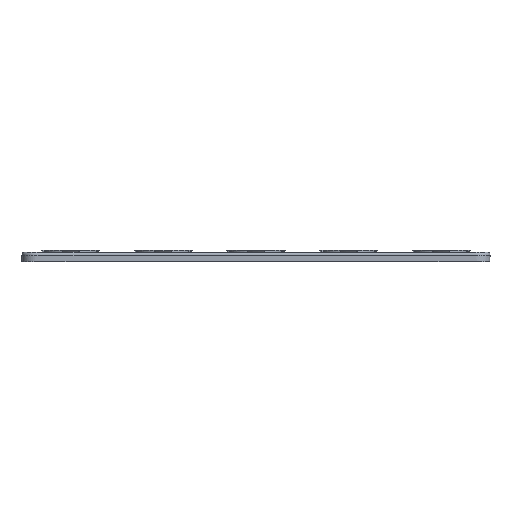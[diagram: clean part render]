
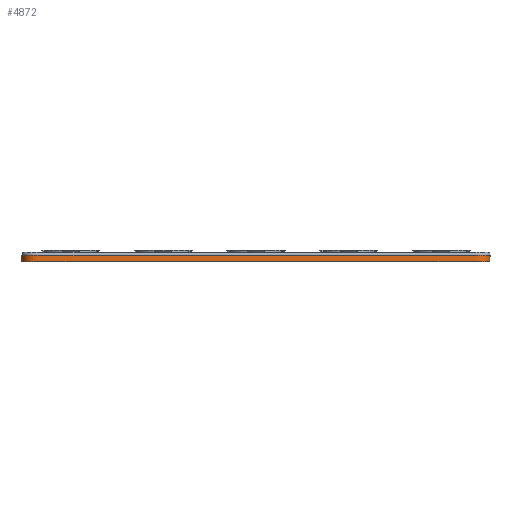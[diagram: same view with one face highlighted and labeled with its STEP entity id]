
A CAD part, left-side view. The second image highlights one B-rep face of the part: STEP entity #4872.
In plain terms, the highlighted free-form (B-spline) face has degree [1, 2] with [2, 9] control points.
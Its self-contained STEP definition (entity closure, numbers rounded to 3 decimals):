
#4872=ADVANCED_FACE($,(#9363),#55843,.T.);
#9363=FACE_OUTER_BOUND($,#14223,.T.);
#14223=EDGE_LOOP($,(#36953,#36954,#36955,#36956));
#36953=ORIENTED_EDGE($,*,*,#48324,.T.);
#36954=ORIENTED_EDGE($,*,*,#48326,.T.);
#36955=ORIENTED_EDGE($,*,*,#36986,.F.);
#36956=ORIENTED_EDGE($,*,*,#48325,.F.);
#36986=EDGE_CURVE($,#48353,#54945,#60694,.T.);
#48324=EDGE_CURVE($,#55178,#55179,#71039,.T.);
#48325=EDGE_CURVE($,#55178,#48353,#60666,.T.);
#48326=EDGE_CURVE($,#55179,#54945,#60667,.T.);
#48353=VERTEX_POINT($,#116943);
#54945=VERTEX_POINT($,#123535);
#55178=VERTEX_POINT($,#123768);
#55179=VERTEX_POINT($,#123769);
#55843=(
BOUNDED_SURFACE()
B_SPLINE_SURFACE(1,2,((#116844,#116845,#116846,#116847,#116848,#116849,#116850,
#116851,#116852),(#116853,#116854,#116855,#116856,#116857,#116858,#116859,
#116860,#116861)),.UNSPECIFIED.,.F.,.F.,.F.)
B_SPLINE_SURFACE_WITH_KNOTS((2,2),(3,2,2,2,3),(0.,1.4),(-135.521,
-8.477,-3.764,85.298,90.011),.UNSPECIFIED.)
GEOMETRIC_REPRESENTATION_ITEM()
RATIONAL_B_SPLINE_SURFACE(((1.,1.,1.,0.707,1.,1.,1.,0.707,
1.),(1.,1.,1.,0.707,1.,1.,1.,0.707,1.)))
REPRESENTATION_ITEM($)
SURFACE()
);
#60666=(
BOUNDED_CURVE()
B_SPLINE_CURVE(2,(#106420,#106421,#106422,#106423,#106424,#106425,#106426,
#106427,#106428),.UNSPECIFIED.,.F.,.F.)
B_SPLINE_CURVE_WITH_KNOTS((3,2,2,2,3),(-135.521,-8.477,
-3.764,85.298,90.011),.UNSPECIFIED.)
CURVE()
GEOMETRIC_REPRESENTATION_ITEM()
RATIONAL_B_SPLINE_CURVE((1.,1.,1.,0.707,1.,1.,1.,0.707,
1.))
REPRESENTATION_ITEM($)
);
#60667=(
BOUNDED_CURVE()
B_SPLINE_CURVE(3,(#106429,#106430,#106431,#106432,#106433,#106434,#106435,
#106436,#106437,#106438,#106439,#106440,#106441,#106442,#106443,#106444,
#106445,#106446,#106447),.UNSPECIFIED.,.F.,.F.)
B_SPLINE_CURVE_WITH_KNOTS((4,3,1,1,1,3,3,1,1,1,4),(224.037,352.037,
352.912,353.86,354.813,355.807,445.807,
446.682,447.63,448.582,449.577),.UNSPECIFIED.)
CURVE()
GEOMETRIC_REPRESENTATION_ITEM()
RATIONAL_B_SPLINE_CURVE((1.,1.,1.,1.,1.,1.,1.,1.,1.,1.,1.,1.,1.,1.,1.,1.,
1.,1.,1.))
REPRESENTATION_ITEM($)
);
#60694=B_SPLINE_CURVE_WITH_KNOTS($,1,(#78853,#78854),.UNSPECIFIED.,.F.,.F.,
(2,2),(0.,1.4),.UNSPECIFIED.);
#71039=B_SPLINE_CURVE_WITH_KNOTS($,1,(#106418,#106419),.UNSPECIFIED.,.F.,
.F.,(2,2),(0.,1.4),.UNSPECIFIED.);
#78853=CARTESIAN_POINT($,(2.5,95.5,5.5));
#78854=CARTESIAN_POINT($,(2.5,95.5,6.9));
#106418=CARTESIAN_POINT($,(130.5,-0.5,5.5));
#106419=CARTESIAN_POINT($,(130.5,-0.5,6.9));
#106420=CARTESIAN_POINT($,(130.5,-0.5,5.5));
#106421=CARTESIAN_POINT($,(66.5,-0.5,5.5));
#106422=CARTESIAN_POINT($,(2.5,-0.5,5.5));
#106423=CARTESIAN_POINT($,(-0.5,-0.5,5.5));
#106424=CARTESIAN_POINT($,(-0.5,2.5,5.5));
#106425=CARTESIAN_POINT($,(-0.5,47.5,5.5));
#106426=CARTESIAN_POINT($,(-0.5,92.5,5.5));
#106427=CARTESIAN_POINT($,(-0.5,95.5,5.5));
#106428=CARTESIAN_POINT($,(2.5,95.5,5.5));
#106429=CARTESIAN_POINT($,(130.5,-0.5,6.9));
#106430=CARTESIAN_POINT($,(87.833,-0.5,6.9));
#106431=CARTESIAN_POINT($,(45.167,-0.5,6.9));
#106432=CARTESIAN_POINT($,(2.5,-0.5,6.9));
#106433=CARTESIAN_POINT($,(2.135,-0.5,6.9));
#106434=CARTESIAN_POINT($,(1.376,-0.36,6.9));
#106435=CARTESIAN_POINT($,(0.378,0.268,6.9));
#106436=CARTESIAN_POINT($,(-0.329,1.275,6.9));
#106437=CARTESIAN_POINT($,(-0.5,2.086,6.9));
#106438=CARTESIAN_POINT($,(-0.5,2.5,6.9));
#106439=CARTESIAN_POINT($,(-0.5,32.5,6.9));
#106440=CARTESIAN_POINT($,(-0.5,62.5,6.9));
#106441=CARTESIAN_POINT($,(-0.5,92.5,6.9));
#106442=CARTESIAN_POINT($,(-0.5,92.865,6.9));
#106443=CARTESIAN_POINT($,(-0.36,93.624,6.9));
#106444=CARTESIAN_POINT($,(0.268,94.622,6.9));
#106445=CARTESIAN_POINT($,(1.275,95.329,6.9));
#106446=CARTESIAN_POINT($,(2.086,95.5,6.9));
#106447=CARTESIAN_POINT($,(2.5,95.5,6.9));
#116844=CARTESIAN_POINT($,(130.5,-0.5,5.5));
#116845=CARTESIAN_POINT($,(66.5,-0.5,5.5));
#116846=CARTESIAN_POINT($,(2.5,-0.5,5.5));
#116847=CARTESIAN_POINT($,(-0.5,-0.5,5.5));
#116848=CARTESIAN_POINT($,(-0.5,2.5,5.5));
#116849=CARTESIAN_POINT($,(-0.5,47.5,5.5));
#116850=CARTESIAN_POINT($,(-0.5,92.5,5.5));
#116851=CARTESIAN_POINT($,(-0.5,95.5,5.5));
#116852=CARTESIAN_POINT($,(2.5,95.5,5.5));
#116853=CARTESIAN_POINT($,(130.5,-0.5,6.9));
#116854=CARTESIAN_POINT($,(66.5,-0.5,6.9));
#116855=CARTESIAN_POINT($,(2.5,-0.5,6.9));
#116856=CARTESIAN_POINT($,(-0.5,-0.5,6.9));
#116857=CARTESIAN_POINT($,(-0.5,2.5,6.9));
#116858=CARTESIAN_POINT($,(-0.5,47.5,6.9));
#116859=CARTESIAN_POINT($,(-0.5,92.5,6.9));
#116860=CARTESIAN_POINT($,(-0.5,95.5,6.9));
#116861=CARTESIAN_POINT($,(2.5,95.5,6.9));
#116943=CARTESIAN_POINT($,(2.5,95.5,5.5));
#123535=CARTESIAN_POINT($,(2.5,95.5,6.9));
#123768=CARTESIAN_POINT($,(130.5,-0.5,5.5));
#123769=CARTESIAN_POINT($,(130.5,-0.5,6.9));
